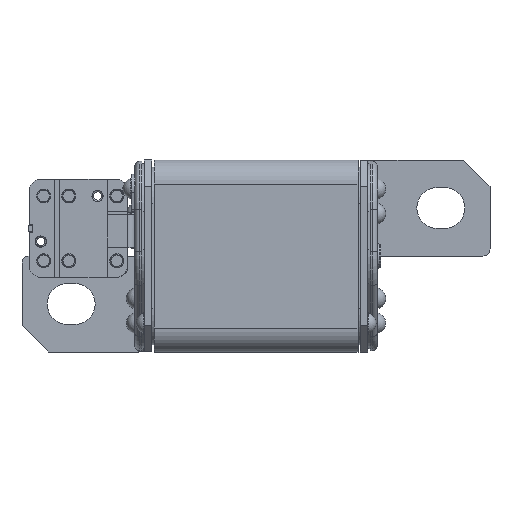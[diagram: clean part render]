
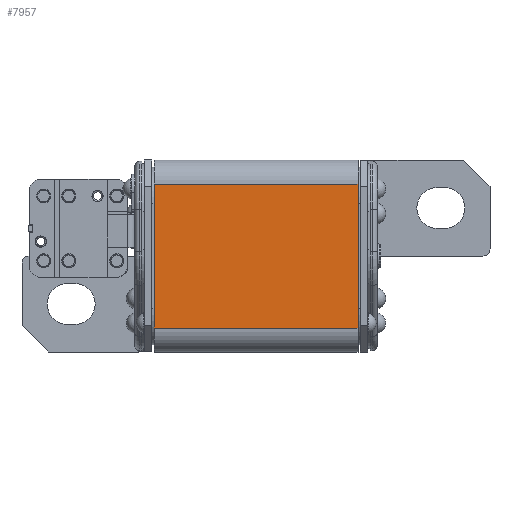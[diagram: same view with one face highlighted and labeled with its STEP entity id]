
A CAD part, left-side view. The second image highlights one B-rep face of the part: STEP entity #7957.
In plain terms, the highlighted planar face has unit normal (-1, 0, 0).
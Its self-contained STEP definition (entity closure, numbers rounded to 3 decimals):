
#627 = VERTEX_POINT ( 'NONE', #14905 ) ;
#1321 = CARTESIAN_POINT ( 'NONE',  ( -40., 42.5, 30. ) ) ;
#1391 = ORIENTED_EDGE ( 'NONE', *, *, #29776, .T. ) ;
#1451 = VECTOR ( 'NONE', #9299, 1000. ) ;
#4314 = DIRECTION ( 'NONE',  ( 0., -1., 0. ) ) ;
#4981 = CARTESIAN_POINT ( 'NONE',  ( -40., -42.5, -30. ) ) ;
#7957 = ADVANCED_FACE ( 'NONE', ( #13429 ), #25845, .F. ) ;
#9299 = DIRECTION ( 'NONE',  ( 0., 0., 1. ) ) ;
#9463 = VERTEX_POINT ( 'NONE', #10938 ) ;
#9470 = LINE ( 'NONE', #39224, #1451 ) ;
#9722 = LINE ( 'NONE', #1321, #37177 ) ;
#9953 = EDGE_CURVE ( 'NONE', #9463, #10005, #9722, .T. ) ;
#10005 = VERTEX_POINT ( 'NONE', #16548 ) ;
#10395 = EDGE_LOOP ( 'NONE', ( #22479, #10863, #30503, #1391 ) ) ;
#10734 = DIRECTION ( 'NONE',  ( 1., 0., 0. ) ) ;
#10863 = ORIENTED_EDGE ( 'NONE', *, *, #9953, .F. ) ;
#10938 = CARTESIAN_POINT ( 'NONE',  ( -40., 42.5, 30. ) ) ;
#13429 = FACE_OUTER_BOUND ( 'NONE', #10395, .T. ) ;
#14905 = CARTESIAN_POINT ( 'NONE',  ( -40., 42.5, -30. ) ) ;
#16548 = CARTESIAN_POINT ( 'NONE',  ( -40., -42.5, 30. ) ) ;
#17715 = VECTOR ( 'NONE', #22100, 1000. ) ;
#18079 = CARTESIAN_POINT ( 'NONE',  ( -40., 42.5, -30. ) ) ;
#18367 = LINE ( 'NONE', #18079, #29752 ) ;
#21159 = DIRECTION ( 'NONE',  ( 0., -1., 0. ) ) ;
#21405 = VERTEX_POINT ( 'NONE', #4981 ) ;
#22100 = DIRECTION ( 'NONE',  ( 0., 0., 1. ) ) ;
#22479 = ORIENTED_EDGE ( 'NONE', *, *, #35317, .T. ) ;
#22935 = DIRECTION ( 'NONE',  ( 0., 0., -1. ) ) ;
#25845 = PLANE ( 'NONE',  #35515 ) ;
#28874 = CARTESIAN_POINT ( 'NONE',  ( -40., 42.5, -30. ) ) ;
#29752 = VECTOR ( 'NONE', #21159, 1000. ) ;
#29776 = EDGE_CURVE ( 'NONE', #627, #21405, #18367, .T. ) ;
#30503 = ORIENTED_EDGE ( 'NONE', *, *, #33319, .F. ) ;
#33319 = EDGE_CURVE ( 'NONE', #627, #9463, #9470, .T. ) ;
#35317 = EDGE_CURVE ( 'NONE', #21405, #10005, #38135, .T. ) ;
#35515 = AXIS2_PLACEMENT_3D ( 'NONE', #28874, #10734, #22935 ) ;
#37177 = VECTOR ( 'NONE', #4314, 1000. ) ;
#37191 = CARTESIAN_POINT ( 'NONE',  ( -40., -42.5, -30. ) ) ;
#38135 = LINE ( 'NONE', #37191, #17715 ) ;
#39224 = CARTESIAN_POINT ( 'NONE',  ( -40., 42.5, -30. ) ) ;
